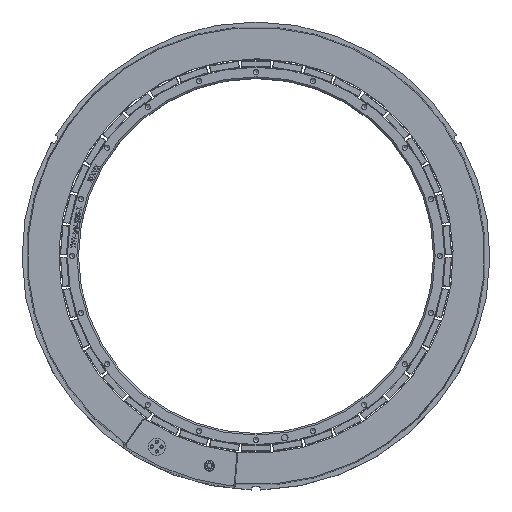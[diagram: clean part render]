
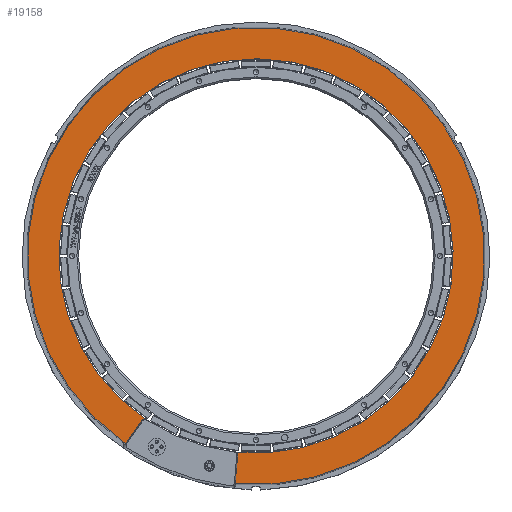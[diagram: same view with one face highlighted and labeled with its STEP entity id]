
A CAD part, top view. The second image highlights one B-rep face of the part: STEP entity #19158.
In plain terms, the highlighted planar face has unit normal (0, 0, 1).
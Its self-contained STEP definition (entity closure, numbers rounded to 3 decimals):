
#503=B_SPLINE_CURVE_WITH_KNOTS('',3,(#37247,#37248,#37249,#37250,#37251),
 .UNSPECIFIED.,.F.,.F.,(4,1,4),(0.,0.002,
0.003),.UNSPECIFIED.);
#504=B_SPLINE_CURVE_WITH_KNOTS('',3,(#37252,#37253,#37254,#37255,#37256),
 .UNSPECIFIED.,.F.,.F.,(4,1,4),(0.,0.002,0.003),
 .UNSPECIFIED.);
#1286=PLANE('',#24422);
#2380=CIRCLE('',#24420,122.2);
#2381=CIRCLE('',#24423,141.691);
#7591=ORIENTED_EDGE('',*,*,#10259,.F.);
#7592=ORIENTED_EDGE('',*,*,#10260,.F.);
#7593=ORIENTED_EDGE('',*,*,#10261,.F.);
#7594=ORIENTED_EDGE('',*,*,#10262,.T.);
#7595=ORIENTED_EDGE('',*,*,#10257,.T.);
#7596=ORIENTED_EDGE('',*,*,#10263,.T.);
#10257=EDGE_CURVE('',#11808,#11807,#2380,.T.);
#10259=EDGE_CURVE('',#11809,#11810,#12965,.F.);
#10260=EDGE_CURVE('',#11811,#11809,#2381,.T.);
#10261=EDGE_CURVE('',#11812,#11811,#12966,.F.);
#10262=EDGE_CURVE('',#11812,#11808,#503,.T.);
#10263=EDGE_CURVE('',#11807,#11810,#504,.T.);
#11807=VERTEX_POINT('',#37235);
#11808=VERTEX_POINT('',#37237);
#11809=VERTEX_POINT('',#37241);
#11810=VERTEX_POINT('',#37242);
#11811=VERTEX_POINT('',#37244);
#11812=VERTEX_POINT('',#37246);
#12965=LINE('',#37240,#14111);
#12966=LINE('',#37245,#14112);
#14111=VECTOR('',#30477,1000.);
#14112=VECTOR('',#30480,1000.);
#15642=EDGE_LOOP('',(#7591,#7592,#7593,#7594,#7595,#7596));
#17229=FACE_BOUND('',#15642,.T.);
#19158=ADVANCED_FACE('',(#17229),#1286,.F.);
#24420=AXIS2_PLACEMENT_3D('',#37236,#30471,#30472);
#24422=AXIS2_PLACEMENT_3D('',#37239,#30475,#30476);
#24423=AXIS2_PLACEMENT_3D('',#37243,#30478,#30479);
#30471=DIRECTION('',(0.,0.,-1.));
#30472=DIRECTION('',(1.,0.,0.));
#30475=DIRECTION('',(0.,0.,-1.));
#30476=DIRECTION('',(-1.,0.,0.));
#30477=DIRECTION('',(-0.087,-0.996,0.));
#30478=DIRECTION('',(0.,0.,-1.));
#30479=DIRECTION('',(-1.,0.,0.));
#30480=DIRECTION('',(0.574,0.819,0.));
#37235=CARTESIAN_POINT('',(-13.157,-121.49,16.));
#37236=CARTESIAN_POINT('',(0.,0.,16.));
#37237=CARTESIAN_POINT('',(-68.013,-101.524,16.));
#37239=CARTESIAN_POINT('',(0.,0.,16.));
#37240=CARTESIAN_POINT('',(-0.557,0.049,16.));
#37241=CARTESIAN_POINT('',(-12.906,-141.102,16.));
#37242=CARTESIAN_POINT('',(-11.379,-123.652,16.));
#37243=CARTESIAN_POINT('',(0.,0.,16.));
#37244=CARTESIAN_POINT('',(-80.812,-116.386,16.));
#37245=CARTESIAN_POINT('',(0.458,-0.32,16.));
#37246=CARTESIAN_POINT('',(-70.765,-102.038,16.));
#37247=CARTESIAN_POINT('',(-70.765,-102.038,16.));
#37248=CARTESIAN_POINT('',(-70.466,-101.61,16.));
#37249=CARTESIAN_POINT('',(-69.533,-101.016,16.));
#37250=CARTESIAN_POINT('',(-68.446,-101.234,16.));
#37251=CARTESIAN_POINT('',(-68.013,-101.524,16.));
#37252=CARTESIAN_POINT('',(-13.157,-121.49,16.));
#37253=CARTESIAN_POINT('',(-12.639,-121.546,16.));
#37254=CARTESIAN_POINT('',(-11.668,-122.076,16.));
#37255=CARTESIAN_POINT('',(-11.334,-123.133,16.));
#37256=CARTESIAN_POINT('',(-11.379,-123.652,16.));
